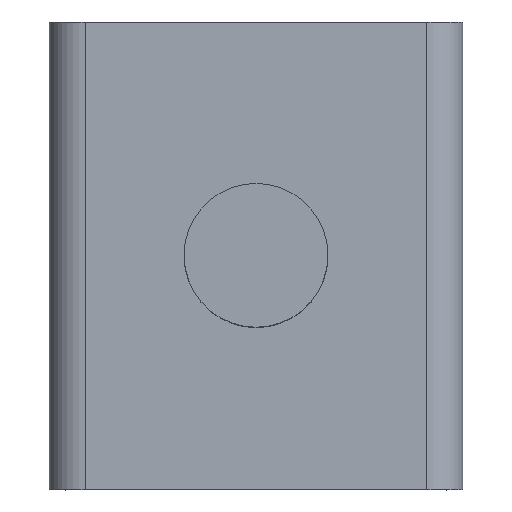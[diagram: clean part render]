
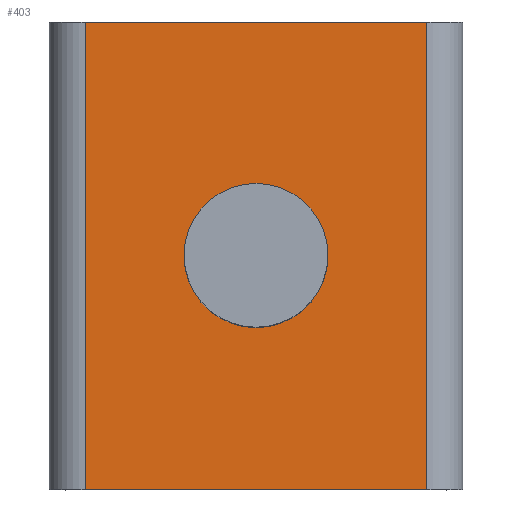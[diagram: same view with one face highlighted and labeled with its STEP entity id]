
A CAD part, top view. The second image highlights one B-rep face of the part: STEP entity #403.
In plain terms, the highlighted planar face has unit normal (0, 0, 1).
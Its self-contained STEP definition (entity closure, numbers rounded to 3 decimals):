
#15=FACE_BOUND('',#67,.T.);
#23=PLANE('',#463);
#44=FACE_OUTER_BOUND('',#66,.T.);
#66=EDGE_LOOP('',(#350,#351,#352,#353));
#67=EDGE_LOOP('',(#354));
#83=LINE('',#626,#122);
#102=LINE('',#682,#141);
#110=LINE('',#699,#149);
#111=LINE('',#701,#150);
#122=VECTOR('',#503,10.);
#141=VECTOR('',#552,10.);
#149=VECTOR('',#574,10.);
#150=VECTOR('',#577,10.);
#153=CIRCLE('',#432,4.);
#171=VERTEX_POINT('',#595);
#182=VERTEX_POINT('',#623);
#183=VERTEX_POINT('',#625);
#204=VERTEX_POINT('',#679);
#205=VERTEX_POINT('',#681);
#210=EDGE_CURVE('',#171,#171,#153,.T.);
#223=EDGE_CURVE('',#182,#183,#83,.T.);
#252=EDGE_CURVE('',#204,#205,#102,.T.);
#262=EDGE_CURVE('',#205,#182,#110,.T.);
#263=EDGE_CURVE('',#183,#204,#111,.T.);
#350=ORIENTED_EDGE('',*,*,#262,.F.);
#351=ORIENTED_EDGE('',*,*,#252,.F.);
#352=ORIENTED_EDGE('',*,*,#263,.F.);
#353=ORIENTED_EDGE('',*,*,#223,.F.);
#354=ORIENTED_EDGE('',*,*,#210,.T.);
#403=ADVANCED_FACE('',(#44,#15),#23,.T.);
#432=AXIS2_PLACEMENT_3D('',#597,#477,#478);
#463=AXIS2_PLACEMENT_3D('',#700,#575,#576);
#477=DIRECTION('center_axis',(0.,0.,-1.));
#478=DIRECTION('ref_axis',(-1.,0.,0.));
#503=DIRECTION('',(-1.,0.,0.));
#552=DIRECTION('',(1.,0.,0.));
#574=DIRECTION('',(0.,-1.,0.));
#575=DIRECTION('center_axis',(0.,0.,1.));
#576=DIRECTION('ref_axis',(1.,0.,0.));
#577=DIRECTION('',(0.,1.,0.));
#595=CARTESIAN_POINT('',(4.,0.,2.5));
#597=CARTESIAN_POINT('Origin',(0.,0.,2.5));
#623=CARTESIAN_POINT('',(9.5,-13.,2.5));
#625=CARTESIAN_POINT('',(-9.5,-13.,2.5));
#626=CARTESIAN_POINT('',(11.5,-13.,2.5));
#679=CARTESIAN_POINT('',(-9.5,13.,2.5));
#681=CARTESIAN_POINT('',(9.5,13.,2.5));
#682=CARTESIAN_POINT('',(-11.5,13.,2.5));
#699=CARTESIAN_POINT('',(9.5,6.5,2.5));
#700=CARTESIAN_POINT('Origin',(0.,0.,2.5));
#701=CARTESIAN_POINT('',(-9.5,-6.5,2.5));
